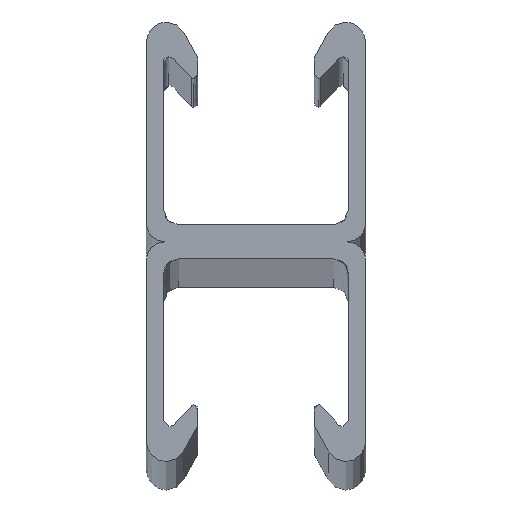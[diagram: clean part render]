
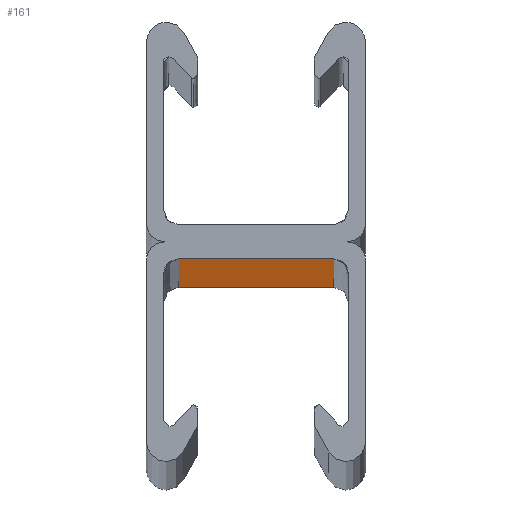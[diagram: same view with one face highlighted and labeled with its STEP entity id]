
A CAD part, top view. The second image highlights one B-rep face of the part: STEP entity #161.
In plain terms, the highlighted planar face has unit normal (0, -1, 0).
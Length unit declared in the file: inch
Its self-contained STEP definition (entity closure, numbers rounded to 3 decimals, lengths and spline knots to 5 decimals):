
#161=ADVANCED_FACE('',(#337),#338,.T.);
#337=FACE_OUTER_BOUND('',#771,.T.);
#338=PLANE('',#772);
#771=EDGE_LOOP('',(#1270,#1271,#1272,#1273));
#772=AXIS2_PLACEMENT_3D('',#1274,#1275,#1276);
#1270=ORIENTED_EDGE('',*,*,#1630,.T.);
#1271=ORIENTED_EDGE('',*,*,#1485,.F.);
#1272=ORIENTED_EDGE('',*,*,#1647,.F.);
#1273=ORIENTED_EDGE('',*,*,#1560,.T.);
#1274=CARTESIAN_POINT('',(0.67688,-0.12504,0.0));
#1275=DIRECTION('',(0.,-1.,0.0));
#1276=DIRECTION('',(1.,0.,0.0));
#1485=EDGE_CURVE('',#1738,#1733,#1740,.T.);
#1560=EDGE_CURVE('',#1864,#1862,#1865,.T.);
#1630=EDGE_CURVE('',#1862,#1733,#1969,.T.);
#1647=EDGE_CURVE('',#1864,#1738,#1992,.T.);
#1733=VERTEX_POINT('',#2112);
#1738=VERTEX_POINT('',#2121);
#1740=LINE('',#2126,#2127);
#1862=VERTEX_POINT('',#2335);
#1864=VERTEX_POINT('',#2340);
#1865=LINE('',#2341,#2342);
#1969=LINE('',#2525,#2526);
#1992=LINE('',#2569,#2570);
#2112=CARTESIAN_POINT('',(0.10376,-0.12495,120.0));
#2121=CARTESIAN_POINT('',(0.10376,-0.12495,0.0));
#2126=CARTESIAN_POINT('',(0.10376,-0.12495,0.0));
#2127=VECTOR('',#2679,1.0);
#2335=CARTESIAN_POINT('',(1.25,-0.12514,120.0));
#2340=CARTESIAN_POINT('',(1.25,-0.12514,0.0));
#2341=CARTESIAN_POINT('',(1.25,-0.12514,0.0));
#2342=VECTOR('',#2724,1.0);
#2525=CARTESIAN_POINT('',(1.25,-0.12514,120.0));
#2526=VECTOR('',#2783,1.);
#2569=CARTESIAN_POINT('',(1.25,-0.12514,0.0));
#2570=VECTOR('',#2795,1.);
#2679=DIRECTION('',(0.0,0.0,1.0));
#2724=DIRECTION('',(0.0,0.0,1.0));
#2783=DIRECTION('',(-1.,0.,0.0));
#2795=DIRECTION('',(-1.,0.,0.0));
